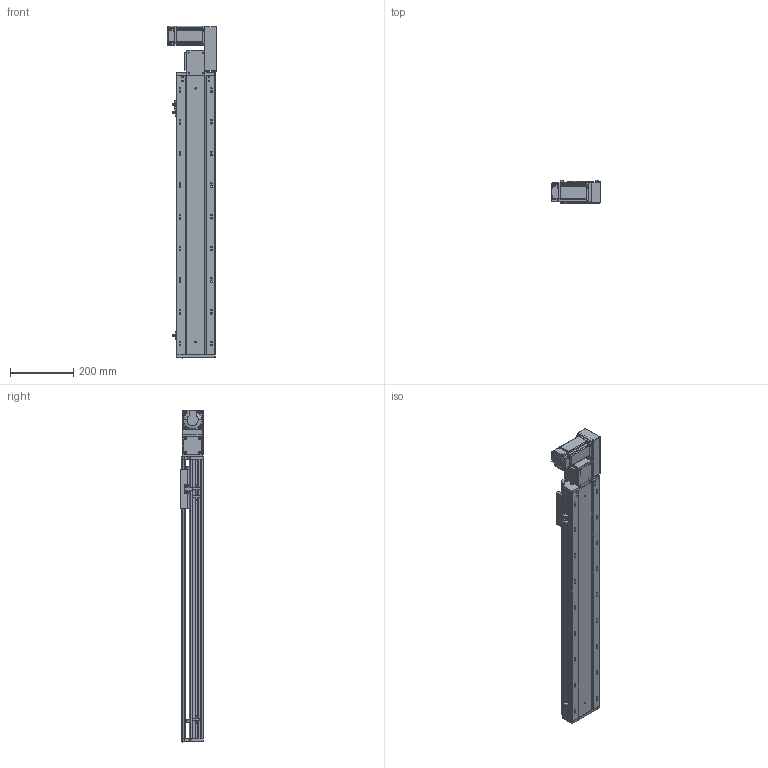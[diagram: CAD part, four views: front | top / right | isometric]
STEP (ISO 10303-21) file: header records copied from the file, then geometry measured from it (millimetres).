
FILE_DESCRIPTION (( 'STEP AP203' ), '1' );
FILE_NAME ('RY120-T-300-RK.SLDASM_650.step', '2021-03-01T03:53:00', ( '盈信电脑' ), ( '东莞市道滘镇水果街19号' ), 'SwSTEP 2.0', 'SolidWorks 2012', '' );
FILE_SCHEMA (( 'CONFIG_CONTROL_DESIGN' ));
Length unit declared in the file: millimetre
Products named in the file (17): RY120-T-300-RK倰第奻裔啣_650; RY120-T-300-RK倰第菁釱_650; RY120綴裔啣; RY120肮祭湍臏賑輸; RY120-T-300-RK.SLDASM_650; RY120-T主同步轮轴承压盖; RY120-T蹟翐M4; RY120-T萇儂欶; RY120-T翋肮祭謫裔啣; 15; RY120-T萇儂假蚾啣; 滅袉蝶18-10; RY120外置感应片(140共用）; RY120-T肮祭湍揤踡輸2; RY120-T翋肮祭盓傅釱; RY120-T肮祭湍揤踡輸1; 覜茼ん672
Assembly tree (22 placements, depth 2):
  RY120-T-300-RK.SLDASM_650
    RY120-T-300-RK倰第菁釱_650
    RY120-T-300-RK倰第奻裔啣_650
    RY120肮祭湍臏賑輸
    RY120綴裔啣
    覜茼ん672  x3
    RY120外置感应片(140共用）
    RY120-T肮祭湍揤踡輸1
    RY120-T肮祭湍揤踡輸2
    RY120-T翋肮祭盓傅釱
    滅袉蝶18-10  x2
    RY120-T翋肮祭謫裔啣
    15
    RY120-T萇儂假蚾啣
    RY120-T蹟翐M4  x4
    RY120-T萇儂欶
    RY120-T主同步轮轴承压盖
Bounding box: 155.5 x 73 x 1047.5 mm (x, y, z)
Volume: 2845553.9 mm3; surface area: 1048095.4 mm2
Topology: 23 solids, 23 shells, 2856 faces, 7828 edges, 5042 vertices
Faces by surface type: plane 1436, cylinder 1100, cone 231, bspline 89
Entity records: 92049 total; most frequent: CARTESIAN_POINT 24004, ORIENTED_EDGE 14128, DIRECTION 13210, EDGE_CURVE 7064, VERTEX_POINT 4629, AXIS2_PLACEMENT_3D 4423, LINE 4364, VECTOR 4364
